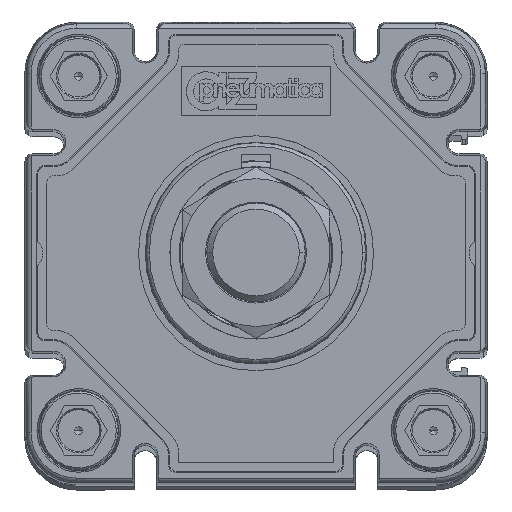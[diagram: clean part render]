
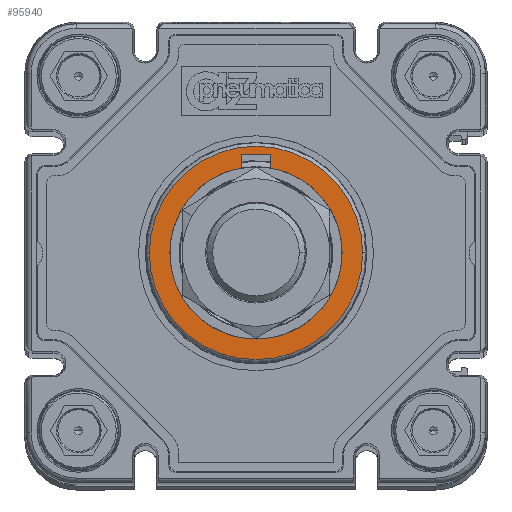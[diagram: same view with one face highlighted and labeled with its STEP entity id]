
A CAD part, top view. The second image highlights one B-rep face of the part: STEP entity #95940.
In plain terms, the highlighted planar face has unit normal (0, 0, 1) as drawn and (0, 0, -1) by its records, which use the part's own axes.
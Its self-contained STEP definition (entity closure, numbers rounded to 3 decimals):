
#4683 = ORIENTED_EDGE ( 'NONE', *, *, #22729, .T. ) ;
#5927 = DIRECTION ( 'NONE',  ( -1., 0., 0. ) ) ;
#7010 = ORIENTED_EDGE ( 'NONE', *, *, #40943, .F. ) ;
#8963 = FACE_BOUND ( 'NONE', #33369, .T. ) ;
#9507 = CIRCLE ( 'NONE', #42985, 17.5 ) ;
#10000 = CARTESIAN_POINT ( 'NONE',  ( 3., 17.241, -68.1 ) ) ;
#12517 = EDGE_CURVE ( 'NONE', #89164, #32479, #14777, .T. ) ;
#14777 = CIRCLE ( 'NONE', #95899, 21.674 ) ;
#15998 = ORIENTED_EDGE ( 'NONE', *, *, #95638, .T. ) ;
#18598 = CARTESIAN_POINT ( 'NONE',  ( -3., 20., -68.1 ) ) ;
#19742 = DIRECTION ( 'NONE',  ( 0., 0., 1. ) ) ;
#20946 = CARTESIAN_POINT ( 'NONE',  ( 0., 0., -68.1 ) ) ;
#22175 = CARTESIAN_POINT ( 'NONE',  ( 21.674, 0., -68.1 ) ) ;
#22729 = EDGE_CURVE ( 'NONE', #23103, #71091, #9507, .T. ) ;
#23103 = VERTEX_POINT ( 'NONE', #33346 ) ;
#23477 = VERTEX_POINT ( 'NONE', #10000 ) ;
#28840 = DIRECTION ( 'NONE',  ( 0., 0., 1. ) ) ;
#29003 = VECTOR ( 'NONE', #5927, 1000. ) ;
#29258 = EDGE_CURVE ( 'NONE', #23477, #52449, #87101, .T. ) ;
#30407 = CARTESIAN_POINT ( 'NONE',  ( 3., 20., -68.1 ) ) ;
#30940 = DIRECTION ( 'NONE',  ( 0., 0., -1. ) ) ;
#32479 = VERTEX_POINT ( 'NONE', #70003 ) ;
#33346 = CARTESIAN_POINT ( 'NONE',  ( -3., 17.241, -68.1 ) ) ;
#33369 = EDGE_LOOP ( 'NONE', ( #15998, #4683, #87456, #57400, #48028 ) ) ;
#36368 = EDGE_CURVE ( 'NONE', #52449, #86693, #50846, .T. ) ;
#37906 = ORIENTED_EDGE ( 'NONE', *, *, #12517, .F. ) ;
#38817 = DIRECTION ( 'NONE',  ( 0., 1., 0. ) ) ;
#40943 = EDGE_CURVE ( 'NONE', #32479, #89164, #62653, .T. ) ;
#42985 = AXIS2_PLACEMENT_3D ( 'NONE', #20946, #59175, #43669 ) ;
#43669 = DIRECTION ( 'NONE',  ( 0., -1., 0. ) ) ;
#44127 = LINE ( 'NONE', #88070, #88717 ) ;
#46458 = DIRECTION ( 'NONE',  ( -1., 0., 0. ) ) ;
#47587 = FACE_OUTER_BOUND ( 'NONE', #58091, .T. ) ;
#48028 = ORIENTED_EDGE ( 'NONE', *, *, #36368, .T. ) ;
#50846 = LINE ( 'NONE', #59373, #29003 ) ;
#51047 = VECTOR ( 'NONE', #38817, 1000. ) ;
#52449 = VERTEX_POINT ( 'NONE', #84739 ) ;
#52963 = CARTESIAN_POINT ( 'NONE',  ( 0., -17.5, -68.1 ) ) ;
#55292 = DIRECTION ( 'NONE',  ( -1., 0., 0. ) ) ;
#57400 = ORIENTED_EDGE ( 'NONE', *, *, #29258, .T. ) ;
#58091 = EDGE_LOOP ( 'NONE', ( #7010, #37906 ) ) ;
#59175 = DIRECTION ( 'NONE',  ( 0., 0., 1. ) ) ;
#59325 = CARTESIAN_POINT ( 'NONE',  ( 0., 0., -68.1 ) ) ;
#59373 = CARTESIAN_POINT ( 'NONE',  ( 3., 20., -68.1 ) ) ;
#60504 = EDGE_CURVE ( 'NONE', #71091, #23477, #85133, .T. ) ;
#62364 = DIRECTION ( 'NONE',  ( -1., 0., 0. ) ) ;
#62653 = CIRCLE ( 'NONE', #78236, 21.674 ) ;
#63022 = DIRECTION ( 'NONE',  ( 0., 0., 1. ) ) ;
#65583 = AXIS2_PLACEMENT_3D ( 'NONE', #59325, #19742, #74207 ) ;
#67839 = AXIS2_PLACEMENT_3D ( 'NONE', #77227, #30940, #62364 ) ;
#69178 = PLANE ( 'NONE',  #67839 ) ;
#70003 = CARTESIAN_POINT ( 'NONE',  ( -21.674, 0., -68.1 ) ) ;
#70806 = CARTESIAN_POINT ( 'NONE',  ( 0., 0., -68.1 ) ) ;
#71091 = VERTEX_POINT ( 'NONE', #52963 ) ;
#74207 = DIRECTION ( 'NONE',  ( 0., -1., 0. ) ) ;
#77227 = CARTESIAN_POINT ( 'NONE',  ( 0., 0., -68.1 ) ) ;
#78236 = AXIS2_PLACEMENT_3D ( 'NONE', #70806, #63022, #55292 ) ;
#79984 = DIRECTION ( 'NONE',  ( 0., -1., 0. ) ) ;
#84739 = CARTESIAN_POINT ( 'NONE',  ( 3., 20., -68.1 ) ) ;
#85133 = CIRCLE ( 'NONE', #65583, 17.5 ) ;
#85558 = CARTESIAN_POINT ( 'NONE',  ( 0., 0., -68.1 ) ) ;
#86693 = VERTEX_POINT ( 'NONE', #18598 ) ;
#87101 = LINE ( 'NONE', #30407, #51047 ) ;
#87456 = ORIENTED_EDGE ( 'NONE', *, *, #60504, .T. ) ;
#88070 = CARTESIAN_POINT ( 'NONE',  ( -3., 20., -68.1 ) ) ;
#88717 = VECTOR ( 'NONE', #79984, 1000. ) ;
#89164 = VERTEX_POINT ( 'NONE', #22175 ) ;
#95638 = EDGE_CURVE ( 'NONE', #86693, #23103, #44127, .T. ) ;
#95899 = AXIS2_PLACEMENT_3D ( 'NONE', #85558, #28840, #46458 ) ;
#95940 = ADVANCED_FACE ( 'NONE', ( #47587, #8963 ), #69178, .T. ) ;
